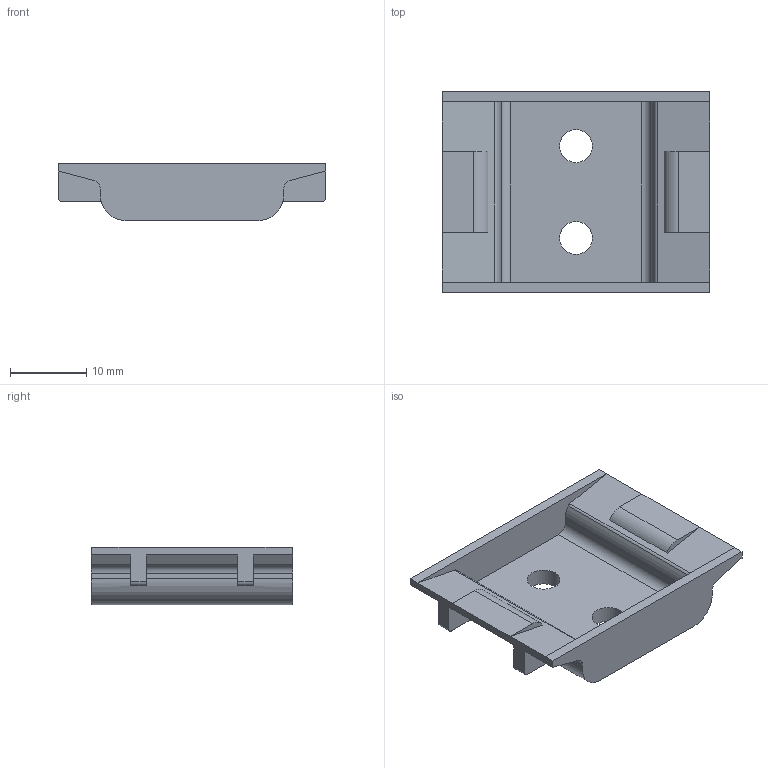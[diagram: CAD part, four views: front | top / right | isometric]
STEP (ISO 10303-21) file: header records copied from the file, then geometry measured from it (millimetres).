
FILE_DESCRIPTION( ( 'Unknown' ), '1' );
FILE_NAME( 'J:/DESBAKUP/3D DATA/MK-020PSM/ASSEMBLIES/3D OUTPUT & IMAGES/MK-020PSM.stp', 'Unknown', ( 'Unknown' ), ( 'Unknown' ), 'PSStep 13.0', 'Unknown', ' ' );
FILE_SCHEMA( ( 'AUTOMOTIVE_DESIGN { 1 0 10303 214 1 1 1 1 }' ) );
Length unit declared in the file: millimetre
Products named in the file (1): 1
Bounding box: 35 x 26.4 x 7.5 mm (x, y, z)
Volume: 2542.1 mm3; surface area: 3020.6 mm2
Topology: 1 solids, 1 shells, 66 faces, 184 edges, 120 vertices
Faces by surface type: plane 44, cylinder 22
Full cylindrical faces by diameter (mm): 4.3 x2
Entity records: 2658 total; most frequent: CARTESIAN_POINT 369, DIRECTION 368, ORIENTED_EDGE 364, EDGE_CURVE 182, LINE 130, VECTOR 130, VERTEX_POINT 120, AXIS2_PLACEMENT_3D 119
